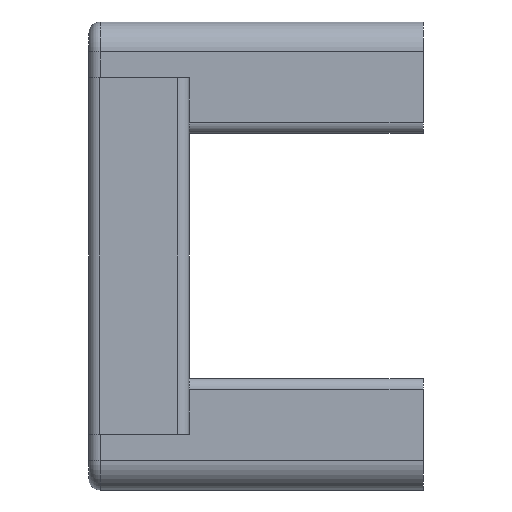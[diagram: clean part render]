
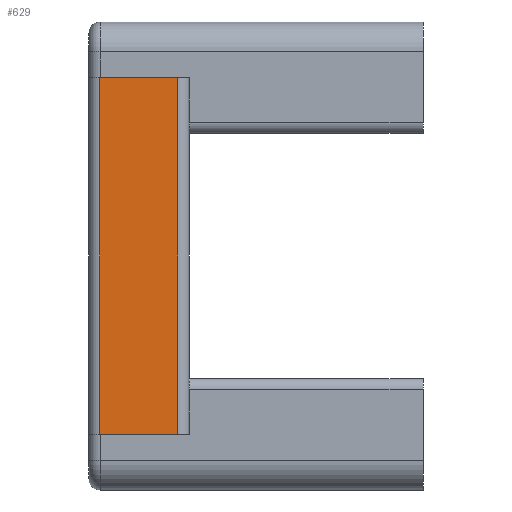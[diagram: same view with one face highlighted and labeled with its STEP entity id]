
A CAD part, left-side view. The second image highlights one B-rep face of the part: STEP entity #629.
In plain terms, the highlighted planar face has unit normal (-1, 0, 0).
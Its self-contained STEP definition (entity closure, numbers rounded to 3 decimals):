
#56 = VECTOR ( 'NONE', #449, 1000. ) ;
#135 = VECTOR ( 'NONE', #1033, 1000. ) ;
#230 = VERTEX_POINT ( 'NONE', #585 ) ;
#281 = ORIENTED_EDGE ( 'NONE', *, *, #1966, .F. ) ;
#368 = DIRECTION ( 'NONE',  ( 0., 0., -1. ) ) ;
#449 = DIRECTION ( 'NONE',  ( 0., 0., -1. ) ) ;
#534 = PLANE ( 'NONE',  #1862 ) ;
#585 = CARTESIAN_POINT ( 'NONE',  ( -4., -3.5, 16. ) ) ;
#629 = ADVANCED_FACE ( 'NONE', ( #1905 ), #534, .F. ) ;
#652 = LINE ( 'NONE', #2037, #135 ) ;
#717 = CARTESIAN_POINT ( 'NONE',  ( -4., 3.5, 16. ) ) ;
#756 = CARTESIAN_POINT ( 'NONE',  ( -4., -3.5, -16. ) ) ;
#897 = ORIENTED_EDGE ( 'NONE', *, *, #2134, .T. ) ;
#954 = VERTEX_POINT ( 'NONE', #1483 ) ;
#1033 = DIRECTION ( 'NONE',  ( 0., -1., 0. ) ) ;
#1039 = CARTESIAN_POINT ( 'NONE',  ( -4., -3.5, 16. ) ) ;
#1126 = LINE ( 'NONE', #1614, #56 ) ;
#1228 = LINE ( 'NONE', #1039, #1440 ) ;
#1236 = EDGE_CURVE ( 'NONE', #954, #1432, #652, .T. ) ;
#1372 = DIRECTION ( 'NONE',  ( 1., 0., 0. ) ) ;
#1432 = VERTEX_POINT ( 'NONE', #756 ) ;
#1440 = VECTOR ( 'NONE', #1712, 1000. ) ;
#1483 = CARTESIAN_POINT ( 'NONE',  ( -4., 3.5, -16. ) ) ;
#1542 = DIRECTION ( 'NONE',  ( 0., -1., 0. ) ) ;
#1614 = CARTESIAN_POINT ( 'NONE',  ( -4., 3.5, 16. ) ) ;
#1667 = ORIENTED_EDGE ( 'NONE', *, *, #1914, .F. ) ;
#1712 = DIRECTION ( 'NONE',  ( 0., 0., -1. ) ) ;
#1727 = CARTESIAN_POINT ( 'NONE',  ( -4., 3.5, 16. ) ) ;
#1741 = VECTOR ( 'NONE', #1542, 1000. ) ;
#1815 = LINE ( 'NONE', #1727, #1741 ) ;
#1837 = EDGE_LOOP ( 'NONE', ( #2096, #1667, #281, #897 ) ) ;
#1862 = AXIS2_PLACEMENT_3D ( 'NONE', #717, #1372, #368 ) ;
#1905 = FACE_OUTER_BOUND ( 'NONE', #1837, .T. ) ;
#1914 = EDGE_CURVE ( 'NONE', #230, #1432, #1228, .T. ) ;
#1921 = CARTESIAN_POINT ( 'NONE',  ( -4., 3.5, 16. ) ) ;
#1966 = EDGE_CURVE ( 'NONE', #2017, #230, #1815, .T. ) ;
#2017 = VERTEX_POINT ( 'NONE', #1921 ) ;
#2037 = CARTESIAN_POINT ( 'NONE',  ( -4., 3.5, -16. ) ) ;
#2096 = ORIENTED_EDGE ( 'NONE', *, *, #1236, .T. ) ;
#2134 = EDGE_CURVE ( 'NONE', #2017, #954, #1126, .T. ) ;
